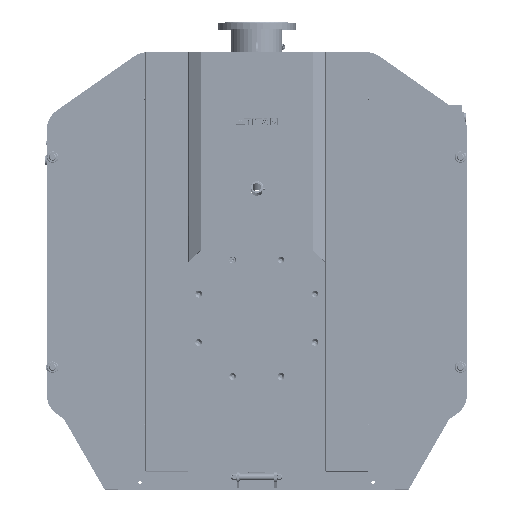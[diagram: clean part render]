
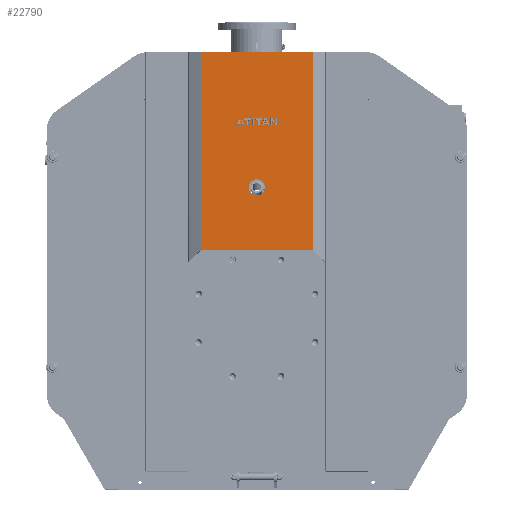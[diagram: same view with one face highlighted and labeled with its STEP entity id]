
A CAD part, top view. The second image highlights one B-rep face of the part: STEP entity #22790.
In plain terms, the highlighted planar face has unit normal (0, 0, 1) as drawn and (1, 0, 0) by its records, which use the part's own axes.
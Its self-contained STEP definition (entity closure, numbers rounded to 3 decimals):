
#22790=ADVANCED_FACE('',(#70944,#70946),#70948,.T.);
#70944=FACE_BOUND('',#70945,.T.);
#70945=EDGE_LOOP('',(#147400,#147401,#147402,#147403,#147404,#147405));
#70946=FACE_BOUND('',#70947,.T.);
#70947=EDGE_LOOP('',(#147406));
#70948=PLANE('',#70949);
#70949=AXIS2_PLACEMENT_3D('',#70950,#70951,#70952);
#70950=CARTESIAN_POINT('',(0.,-239.464,-449.));
#70951=DIRECTION('',(1.,0.,0.));
#70952=DIRECTION('',(0.,1.,0.));
#147400=ORIENTED_EDGE('',*,*,#185581,.T.);
#147401=ORIENTED_EDGE('',*,*,#185582,.T.);
#147402=ORIENTED_EDGE('',*,*,#185583,.T.);
#147403=ORIENTED_EDGE('',*,*,#185584,.F.);
#147404=ORIENTED_EDGE('',*,*,#185585,.T.);
#147405=ORIENTED_EDGE('',*,*,#185586,.T.);
#147406=ORIENTED_EDGE('',*,*,#185587,.T.);
#185581=EDGE_CURVE('',#208860,#208861,#208862,.F.);
#185582=EDGE_CURVE('',#208861,#208863,#208864,.T.);
#185583=EDGE_CURVE('',#208863,#208865,#208866,.F.);
#185584=EDGE_CURVE('',#208867,#208865,#208868,.T.);
#185585=EDGE_CURVE('',#208867,#208869,#208870,.F.);
#185586=EDGE_CURVE('',#208869,#208860,#208871,.T.);
#185587=EDGE_CURVE('',#208872,#208872,#208873,.F.);
#208860=VERTEX_POINT('',#262518);
#208861=VERTEX_POINT('',#262519);
#208862=CIRCLE('',#262520,1.439);
#208863=VERTEX_POINT('',#262524);
#208864=LINE('',#262525,#262526);
#208865=VERTEX_POINT('',#262528);
#208866=CIRCLE('',#262529,1.439);
#208867=VERTEX_POINT('',#262533);
#208868=LINE('',#262534,#262535);
#208869=VERTEX_POINT('',#262537);
#208870=LINE('',#262538,#262539);
#208871=LINE('',#262541,#262542);
#208872=VERTEX_POINT('',#262544);
#208873=CIRCLE('',#262545,35.);
#262518=CARTESIAN_POINT('',(0.,239.464,448.768));
#262519=CARTESIAN_POINT('',(0.,239.173,449.));
#262520=AXIS2_PLACEMENT_3D('',#262521,#262522,#262523);
#262521=CARTESIAN_POINT('',(0.,240.208,450.));
#262522=DIRECTION('',(1.,0.,0.));
#262523=DIRECTION('',(0.,-0.719,-0.695));
#262524=CARTESIAN_POINT('',(0.,-239.173,449.));
#262525=CARTESIAN_POINT('',(0.,239.173,449.));
#262526=VECTOR('',#262527,1.);
#262527=DIRECTION('',(0.,-1.,0.));
#262528=CARTESIAN_POINT('',(0.,-239.464,448.768));
#262529=AXIS2_PLACEMENT_3D('',#262530,#262531,#262532);
#262530=CARTESIAN_POINT('',(0.,-240.208,450.));
#262531=DIRECTION('',(1.,0.,0.));
#262532=DIRECTION('',(0.,0.517,-0.856));
#262533=CARTESIAN_POINT('',(0.,-239.464,-399.));
#262534=CARTESIAN_POINT('',(0.,-239.464,-399.));
#262535=VECTOR('',#262536,1.);
#262536=DIRECTION('',(0.,0.,1.));
#262537=CARTESIAN_POINT('',(0.,239.464,-399.));
#262538=CARTESIAN_POINT('',(0.,239.464,-399.));
#262539=VECTOR('',#262540,1.);
#262540=DIRECTION('',(0.,-1.,0.));
#262541=CARTESIAN_POINT('',(0.,239.464,-399.));
#262542=VECTOR('',#262543,1.);
#262543=DIRECTION('',(0.,0.,1.));
#262544=CARTESIAN_POINT('',(0.,35.,-130.));
#262545=AXIS2_PLACEMENT_3D('',#262546,#262547,#262548);
#262546=CARTESIAN_POINT('',(0.,0.,-130.));
#262547=DIRECTION('',(1.,0.,0.));
#262548=DIRECTION('',(0.,1.,0.));
